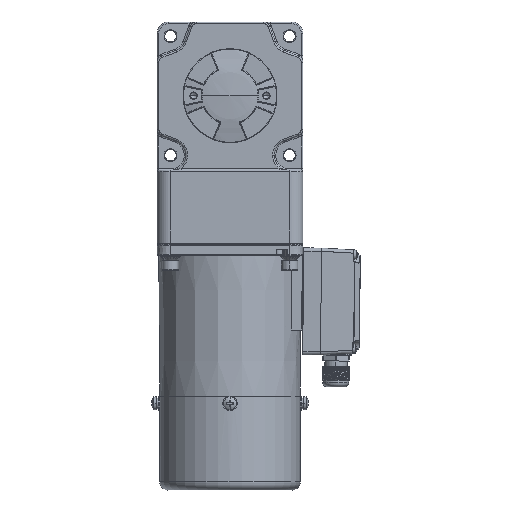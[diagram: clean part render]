
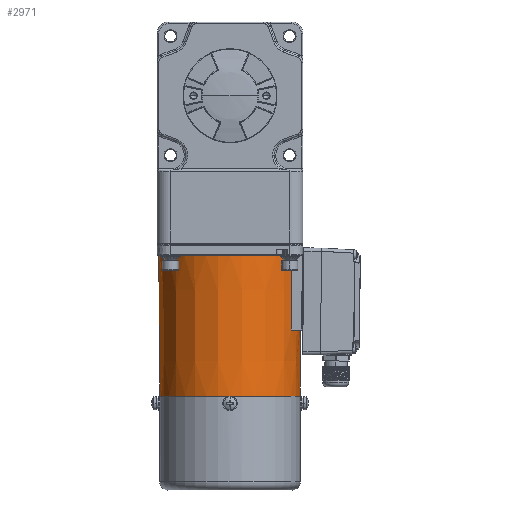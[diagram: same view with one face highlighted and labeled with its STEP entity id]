
A CAD part, front view. The second image highlights one B-rep face of the part: STEP entity #2971.
In plain terms, the highlighted conical face has half-angle 0.5 degrees and reference radius 43.62 mm.
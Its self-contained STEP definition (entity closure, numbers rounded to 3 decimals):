
#1316 = FACE_OUTER_BOUND ( 'NONE', #19511, .T. ) ;
#2547 = EDGE_CURVE ( 'NONE', #82720, #22980, #37178, .T. ) ;
#2971 = ADVANCED_FACE ( 'NONE', ( #1316 ), #29720, .T. ) ;
#5359 = CARTESIAN_POINT ( 'NONE',  ( 26.136, -30.093, 123.297 ) ) ;
#5601 = CARTESIAN_POINT ( 'NONE',  ( 26.213, -30.227, 138.652 ) ) ;
#6859 = CARTESIAN_POINT ( 'NONE',  ( -55.736, -8.496, 169.5 ) ) ;
#8823 = CARTESIAN_POINT ( 'NONE',  ( 26.369, -30.496, 169.5 ) ) ;
#13882 = CARTESIAN_POINT ( 'NONE',  ( 26.151, -30.064, 123.171 ) ) ;
#14131 = CARTESIAN_POINT ( 'NONE',  ( 26.369, -30.496, 169.5 ) ) ;
#15586 = EDGE_CURVE ( 'NONE', #21389, #93600, #81078, .T. ) ;
#17113 = DIRECTION ( 'NONE',  ( 0., 0., -1. ) ) ;
#19511 = EDGE_LOOP ( 'NONE', ( #45352, #39771, #58352, #71028, #42089, #84034, #57426 ) ) ;
#19748 = CARTESIAN_POINT ( 'NONE',  ( -54.977, -8.496, 82.5 ) ) ;
#20722 = DIRECTION ( 'NONE',  ( -0.009, 0., -1. ) ) ;
#21389 = VERTEX_POINT ( 'NONE', #33003 ) ;
#22378 = CARTESIAN_POINT ( 'NONE',  ( 26.174, -30.022, 123.106 ) ) ;
#22980 = VERTEX_POINT ( 'NONE', #19748 ) ;
#29720 = CONICAL_SURFACE ( 'NONE', #49568, 43.62, 0.009 ) ;
#30894 = CARTESIAN_POINT ( 'NONE',  ( 26.302, -29.793, 123. ) ) ;
#32190 = AXIS2_PLACEMENT_3D ( 'NONE', #76388, #111019, #33307 ) ;
#33003 = CARTESIAN_POINT ( 'NONE',  ( 31.858, -8.496, 123. ) ) ;
#33307 = DIRECTION ( 'NONE',  ( 1., 0., 0. ) ) ;
#33760 = CIRCLE ( 'NONE', #97123, 44. ) ;
#34009 = CARTESIAN_POINT ( 'NONE',  ( 31.505, -8.496, 82.5 ) ) ;
#34472 = CARTESIAN_POINT ( 'NONE',  ( 26.302, -29.793, 123. ) ) ;
#35926 = CARTESIAN_POINT ( 'NONE',  ( -11.736, -8.496, 126. ) ) ;
#37102 = VERTEX_POINT ( 'NONE', #8823 ) ;
#37178 = LINE ( 'NONE', #71756, #60781 ) ;
#39771 = ORIENTED_EDGE ( 'NONE', *, *, #2547, .T. ) ;
#40248 = CARTESIAN_POINT ( 'NONE',  ( 26.162, -30.137, 128.411 ) ) ;
#41307 = CARTESIAN_POINT ( 'NONE',  ( -11.736, -8.496, 169.5 ) ) ;
#42089 = ORIENTED_EDGE ( 'NONE', *, *, #15586, .T. ) ;
#42900 = B_SPLINE_CURVE_WITH_KNOTS ( 'NONE', 3,
 ( #30894, #65504, #100105, #22378, #56993, #91590, #13882, #48488, #83073, #5359 ),
 .UNSPECIFIED., .F., .F.,
 ( 4, 2, 2, 2, 4 ),
 ( 0., 0.5, 0.625, 0.75, 1. ),
 .UNSPECIFIED. ) ;
#44013 = CARTESIAN_POINT ( 'NONE',  ( 26.136, -30.093, 123.297 ) ) ;
#45352 = ORIENTED_EDGE ( 'NONE', *, *, #81781, .T. ) ;
#47594 = EDGE_CURVE ( 'NONE', #37102, #107515, #109037, .T. ) ;
#48488 = CARTESIAN_POINT ( 'NONE',  ( 26.139, -30.085, 123.223 ) ) ;
#48732 = CARTESIAN_POINT ( 'NONE',  ( 26.343, -30.451, 164.346 ) ) ;
#49568 = AXIS2_PLACEMENT_3D ( 'NONE', #35926, #70513, #105113 ) ;
#51707 = DIRECTION ( 'NONE',  ( 1., 0., 0. ) ) ;
#56993 = CARTESIAN_POINT ( 'NONE',  ( 26.167, -30.034, 123.121 ) ) ;
#57426 = ORIENTED_EDGE ( 'NONE', *, *, #47594, .F. ) ;
#58352 = ORIENTED_EDGE ( 'NONE', *, *, #73103, .F. ) ;
#59225 = AXIS2_PLACEMENT_3D ( 'NONE', #94818, #17113, #51707 ) ;
#60781 = VECTOR ( 'NONE', #106385, 1000. ) ;
#63841 = LINE ( 'NONE', #98433, #102043 ) ;
#65504 = CARTESIAN_POINT ( 'NONE',  ( 26.256, -29.875, 123. ) ) ;
#70513 = DIRECTION ( 'NONE',  ( 0., 0., 1. ) ) ;
#71028 = ORIENTED_EDGE ( 'NONE', *, *, #100863, .F. ) ;
#71756 = CARTESIAN_POINT ( 'NONE',  ( -55.736, -8.496, 169.5 ) ) ;
#73103 = EDGE_CURVE ( 'NONE', #97751, #22980, #108132, .T. ) ;
#74802 = CARTESIAN_POINT ( 'NONE',  ( 26.136, -30.093, 123.297 ) ) ;
#75851 = DIRECTION ( 'NONE',  ( 0., 0., -1. ) ) ;
#76388 = CARTESIAN_POINT ( 'NONE',  ( -11.736, -8.496, 123. ) ) ;
#81078 = CIRCLE ( 'NONE', #32190, 43.594 ) ;
#81781 = EDGE_CURVE ( 'NONE', #37102, #82720, #33760, .T. ) ;
#82720 = VERTEX_POINT ( 'NONE', #6859 ) ;
#83073 = CARTESIAN_POINT ( 'NONE',  ( 26.136, -30.092, 123.259 ) ) ;
#83306 = CARTESIAN_POINT ( 'NONE',  ( 26.291, -30.361, 154.052 ) ) ;
#84034 = ORIENTED_EDGE ( 'NONE', *, *, #108945, .T. ) ;
#91590 = CARTESIAN_POINT ( 'NONE',  ( 26.156, -30.055, 123.153 ) ) ;
#93600 = VERTEX_POINT ( 'NONE', #34472 ) ;
#94818 = CARTESIAN_POINT ( 'NONE',  ( -11.736, -8.496, 82.5 ) ) ;
#97123 = AXIS2_PLACEMENT_3D ( 'NONE', #41307, #75851, #110489 ) ;
#97751 = VERTEX_POINT ( 'NONE', #34009 ) ;
#98433 = CARTESIAN_POINT ( 'NONE',  ( 31.858, -8.496, 123. ) ) ;
#100105 = CARTESIAN_POINT ( 'NONE',  ( 26.212, -29.954, 123.035 ) ) ;
#100863 = EDGE_CURVE ( 'NONE', #21389, #97751, #63841, .T. ) ;
#102043 = VECTOR ( 'NONE', #20722, 1000. ) ;
#105113 = DIRECTION ( 'NONE',  ( -1., 0., 0. ) ) ;
#106385 = DIRECTION ( 'NONE',  ( 0.009, 0., -1. ) ) ;
#107515 = VERTEX_POINT ( 'NONE', #44013 ) ;
#108132 = CIRCLE ( 'NONE', #59225, 43.241 ) ;
#108945 = EDGE_CURVE ( 'NONE', #93600, #107515, #42900, .T. ) ;
#109037 = B_SPLINE_CURVE_WITH_KNOTS ( 'NONE', 3,
 ( #14131, #48732, #83306, #5601, #40248, #74802 ),
 .UNSPECIFIED., .F., .F.,
 ( 4, 1, 1, 4 ),
 ( 0., 0.333, 0.667, 1. ),
 .UNSPECIFIED. ) ;
#110489 = DIRECTION ( 'NONE',  ( 0.866, -0.5, 0. ) ) ;
#111019 = DIRECTION ( 'NONE',  ( 0., 0., -1. ) ) ;
